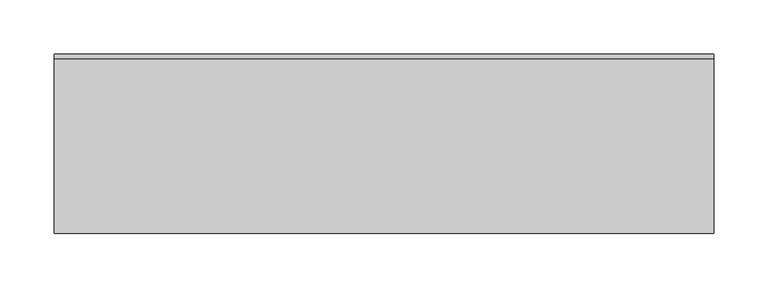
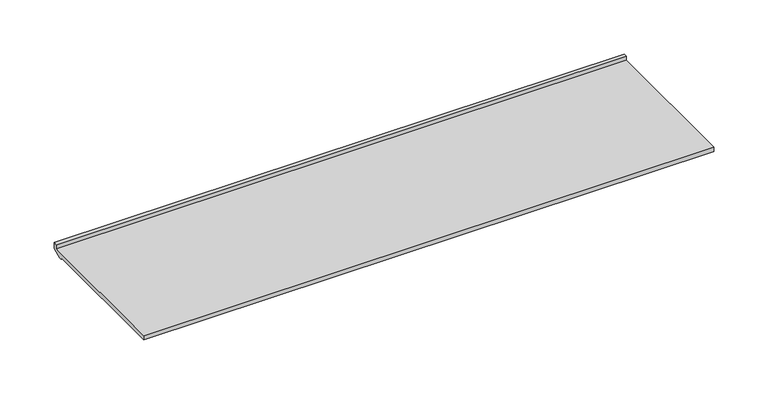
"""IFC4 building model written with IfcOpenShell, lengths in millimetres: furniture geometry, Geiger_GeigerOneCasegoods_Casegoods_AccessoryShelf : 23.875Wx 6.5Dx 0.375H."""

from ifc_helpers import new_model, si_unit, frame, origin, place, context, project, spatial, polyline, outline, extrude, source, transform, mapped, element, save


def furniture_92bcbc96(model_context):
    return source(origin(), model_context, "Body", "SweptSolid", [
        extrude(outline(polyline([(-4.0132, 4.9784), (-4.0132, 9.525), (0.0, 9.525), (0.0, 4.0894), (-0.2794, 3.0734), (-1.0414, 2.3114), (-10.5156, -1.524), (-12.4968, -1.524), (-12.4968, 0.0), (-165.1, 0.0), (-165.1, 4.9784), (-4.0132, 4.9784)])), frame((0.0, 0.0, 0.0), z_axis=(1.0, 0.0, 0.0), x_axis=(0.0, 1.0, 0.0)), (0.0, 0.0, 1.0), 606.425),
    ])


if __name__ == "__main__":
    model = new_model("IFC4")
    model_context = context("Model", 3, world=origin())
    ifc_project = project(units=[si_unit("LENGTHUNIT", "METRE", prefix="MILLI")], contexts=[model_context])
    site = spatial("IfcSite", under=ifc_project)
    building = spatial("IfcBuilding", under=site)
    placement = place(None, origin())
    furniture_shape = furniture_92bcbc96(model_context)
    element("IfcFurniture", 1, ObjectType="Geiger_GeigerOneCasegoods_Casegoods_AccessoryShelf : 23.875Wx 6.5Dx 0.375H", at=placement, inside=building, context=model_context, shape_type="MappedRepresentation", body=[
        mapped(furniture_shape, transform((0.0, 0.0, 0.0), x_axis=(1.0, 0.0, 0.0), y_axis=(0.0, 1.0, 0.0), z_axis=(0.0, 0.0, 1.0))),
    ])
    save(model, "model.ifc")
